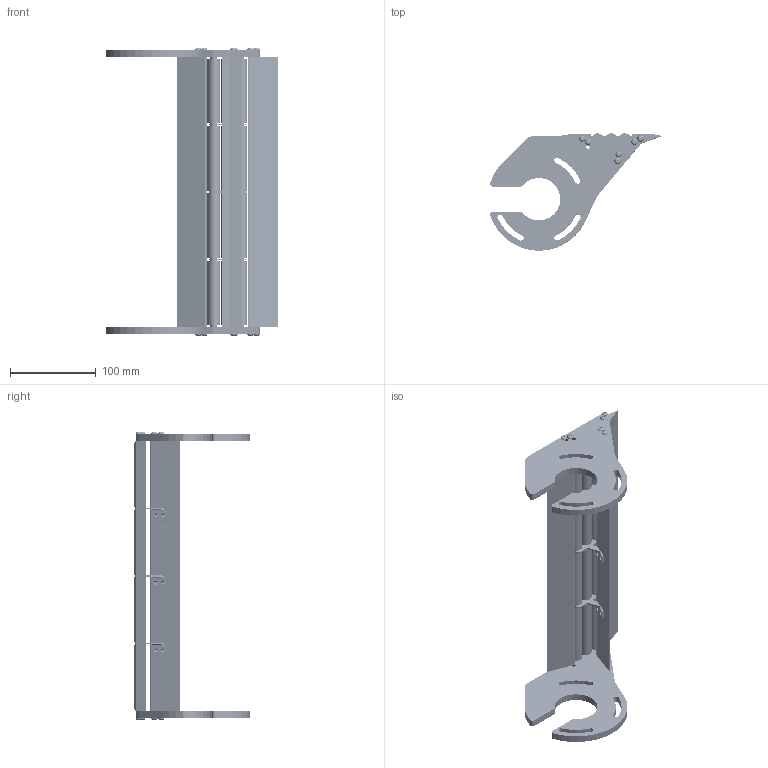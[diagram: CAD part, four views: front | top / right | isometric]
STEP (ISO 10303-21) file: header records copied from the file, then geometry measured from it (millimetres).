
FILE_DESCRIPTION (( 'STEP AP214' ), '1' );
FILE_NAME ('CAB 12 TGRI 2.STEP', '2024-02-27T08:04:53', ( '' ), ( '' ), 'SwSTEP 2.0', 'SolidWorks 2022', '' );
FILE_SCHEMA (( 'AUTOMOTIVE_DESIGN' ));
Length unit declared in the file: millimetre
Products named in the file (15): ROULEMENT TGRI CAB FLEXTOO; SA TGRI; PT-F2 - CAB 12 percé; PSTI CAB 2; ENTRETOISE SA TGRI; SA TGRI + ENTRETOISE; AXE TGRI CAB 12; CAB 12 TGRI 2; Galet + roulement CAB 12; PT-F2 - CAB 12; GR CAB 12; Insert M4 TB; PSTI CAB 2 Symétrie; ENTRETOISE TGRI CAB-F2-R-HEF; TBHC 4X16
Assembly tree (54 placements, depth 3):
  CAB 12 TGRI 2
    PSTI CAB 2 Symétrie
    PSTI CAB 2
    PT-F2 - CAB 12  x2
    PT-F2 - CAB 12 percé
    AXE TGRI CAB 12  x3
    ENTRETOISE TGRI CAB-F2-R-HEF  x6
    SA TGRI + ENTRETOISE  x3
      SA TGRI
      ENTRETOISE SA TGRI
    Galet + roulement CAB 12  x12
      GR CAB 12
      ROULEMENT TGRI CAB FLEXTOO
    TBHC 4X16  x12
    Insert M4 TB  x6
Bounding box: 200.67 x 136.6 x 336.78 mm (x, y, z)
Volume: 586019.7 mm3; surface area: 262466.6 mm2
Topology: 80 solids, 80 shells, 3254 faces, 7100 edges, 4099 vertices
Faces by surface type: cone 1540, cylinder 839, plane 476, torus 345, sphere 39, bspline 15
Entity records: 18842 total; most frequent: CARTESIAN_POINT 3452, DIRECTION 3337, ORIENTED_EDGE 2752, EDGE_CURVE 1376, AXIS2_PLACEMENT_3D 1357, VERTEX_POINT 833, CIRCLE 715, EDGE_LOOP 655
